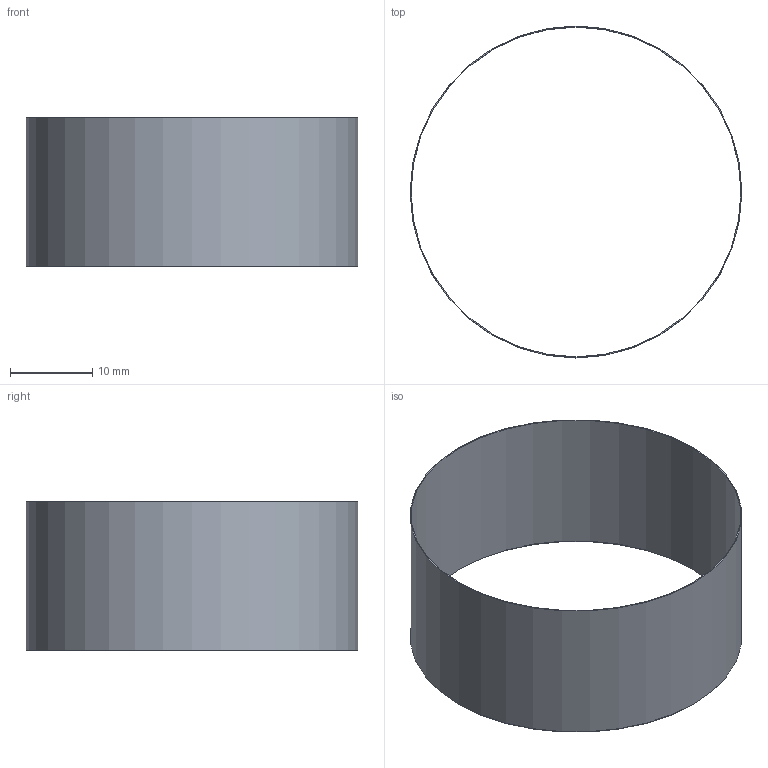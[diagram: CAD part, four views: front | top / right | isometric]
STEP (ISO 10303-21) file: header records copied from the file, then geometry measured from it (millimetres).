
FILE_DESCRIPTION(('Open CASCADE Model'),'2;1');
FILE_NAME('Open CASCADE Shape Model','2026-10-04T02:31:48',('Author'),( 'Open CASCADE'),'Open CASCADE STEP processor 8.0','Open CASCADE 8.0' ,'Unknown');
FILE_SCHEMA(('AUTOMOTIVE_DESIGN { 1 0 10303 214 1 1 1 1 }'));
Length unit declared in the file: millimetre
Products named in the file (1): Open CASCADE STEP translator 8.0 430
Bounding box: 40.24 x 40.24 x 18 mm (x, y, z)
Volume: 249.6 mm3; surface area: 4566.3 mm2
Topology: 1 solids, 1 shells, 4 faces, 6 edges, 4 vertices
Faces by surface type: cylinder 2, plane 2
Full cylindrical faces by diameter (mm): 40.02 x1, 40.24 x1
Entity records: 186 total; most frequent: DIRECTION 32, CARTESIAN_POINT 27, ORIENTED_EDGE 12, PCURVE 12, DEFINITIONAL_REPRESENTATION 12, LINE 10, VECTOR 10, AXIS2_PLACEMENT_3D 9
